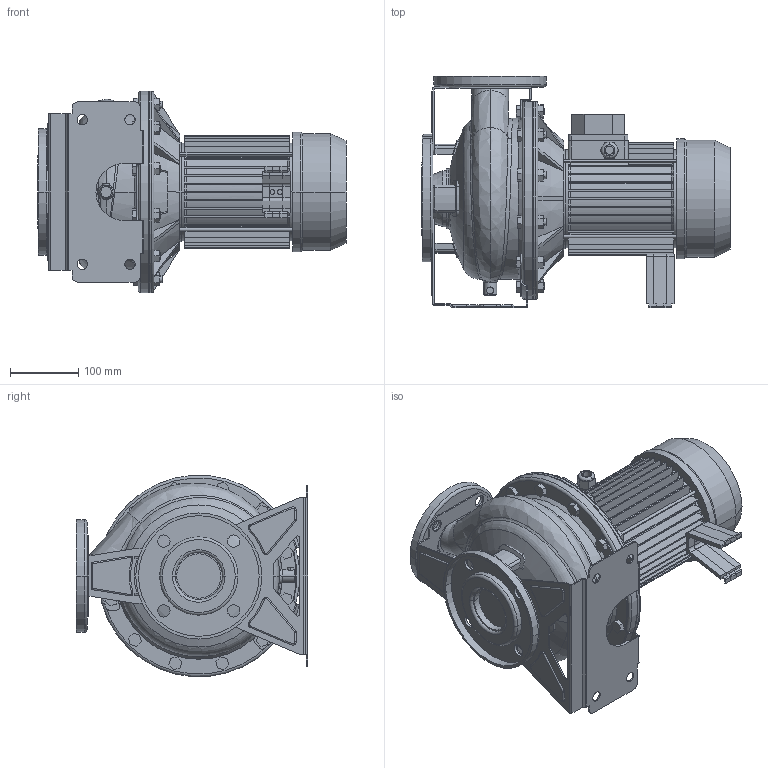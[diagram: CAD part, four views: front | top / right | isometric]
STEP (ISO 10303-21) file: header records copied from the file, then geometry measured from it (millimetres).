
FILE_DESCRIPTION((''),'2;1');
FILE_NAME('3M4_50-160_1_1_IE2_ASM','2012-03-14T',('Rosa'),('"Ebara Pumps Europe +39.444.706811"'),'PRO/ENGINEER BY PARAMETRIC TECHNOLOGY CORPORATION, 2009360','PRO/ENGINEER BY PARAMETRIC TECHNOLOGY CORPORATION, 2009360','');
FILE_SCHEMA(('AUTOMOTIVE_DESIGN { 1 0 10303 214 1 1 1 1 }'));
Length unit declared in the file: millimetre
Products named in the file (11): CORPO_50-160; ASP_50-160; FLANGIA_DIN_65; MAND_50-160; FLANGIA_DIN_50; BASE_3M_50-160; CORPO_SALDATO_50-160_ASM; SUPPORTO_3M_230_90; MEC_90X120_IE2; SOSTEGNO_72006; 3M4_50-160_1_1_IE2_ASM
Assembly tree (11 placements, depth 3):
  3M4_50-160_1_1_IE2_ASM
    CORPO_SALDATO_50-160_ASM
      CORPO_50-160
      ASP_50-160
      FLANGIA_DIN_65
      MAND_50-160
      FLANGIA_DIN_50
      BASE_3M_50-160
    SUPPORTO_3M_230_90
    MEC_90X120_IE2
    SOSTEGNO_72006  x2
Bounding box: 452 x 340 x 295.13 mm (x, y, z)
Volume: 10560081.7 mm3; surface area: 1224838.5 mm2
Topology: 13 solids, 13 shells, 1147 faces, 2927 edges, 1874 vertices
Faces by surface type: plane 641, cylinder 317, cone 90, torus 60, bspline 33, sphere 6
Entity records: 48767 total; most frequent: CARTESIAN_POINT 10033, DIRECTION 5780, ORIENTED_EDGE 5686, PRESENTATION_STYLE_ASSIGNMENT 2855, STYLED_ITEM 2855, CURVE_STYLE 2843, EDGE_CURVE 2843, AXIS2_PLACEMENT_3D 2067
